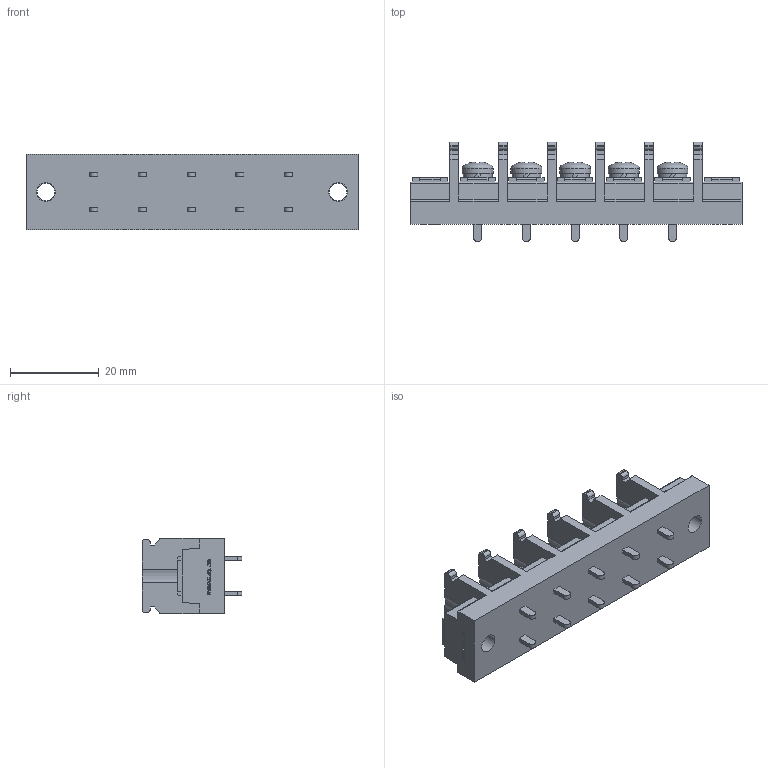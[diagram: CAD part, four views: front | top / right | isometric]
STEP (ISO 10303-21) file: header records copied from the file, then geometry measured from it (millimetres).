
FILE_DESCRIPTION(/* description */ ('Alibre Inc.'),/* implementation_level */ '2;1');
FILE_NAME(/* name */ 'export0',/* time_stamp */ '2015-10-19T19:49:11+09:00',/* author */ (''),/* organization */ (''),/* preprocessor_version */ 'ST-DEVELOPER v14',/* originating_system */ 'Alibre',/* authorisation */ '');
FILE_SCHEMA (('CONFIG_CONTROL_DESIGN'));
Length unit declared in the file: centimetre
Products named in the file (1): ID_1
Bounding box: 75 x 22.5 x 17 mm (x, y, z)
Volume: 13349.3 mm3; surface area: 7705.1 mm2
Topology: 1 solids, 1 shells, 844 faces, 2321 edges, 1543 vertices
Faces by surface type: plane 598, cylinder 107, bspline 104, cone 20, torus 10, sphere 5
Full cylindrical faces by diameter (mm): 4 x7, 4.2 x2, 6.5 x5, 7 x5
Entity records: 25970 total; most frequent: CARTESIAN_POINT 5716, ORIENTED_EDGE 4560, DIRECTION 3244, EDGE_CURVE 2280, VECTOR 1662, LINE 1662, VERTEX_POINT 1526, AXIS2_PLACEMENT_3D 1080
